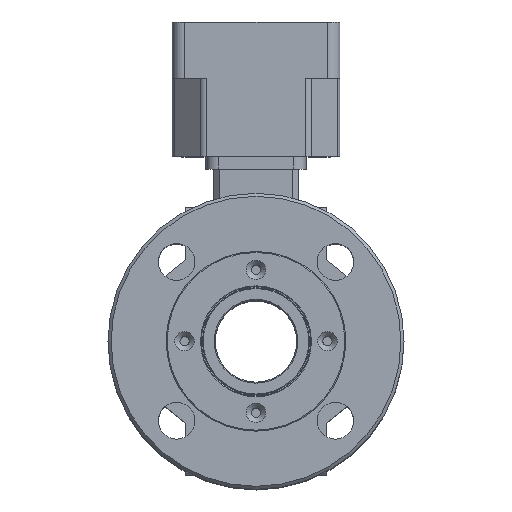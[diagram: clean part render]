
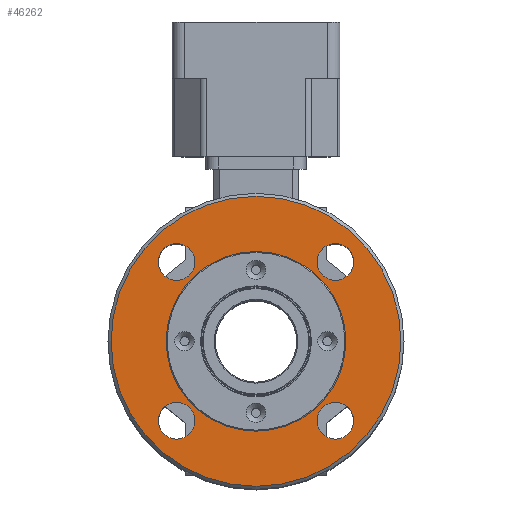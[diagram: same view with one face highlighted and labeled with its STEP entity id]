
A CAD part, top view. The second image highlights one B-rep face of the part: STEP entity #46262.
In plain terms, the highlighted planar face has unit normal (0, 0, 1).
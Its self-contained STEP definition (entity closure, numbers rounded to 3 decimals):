
#10963=FACE_BOUND('',#13898,.T.);
#10964=FACE_BOUND('',#13899,.T.);
#10965=FACE_BOUND('',#13900,.T.);
#10966=FACE_BOUND('',#13901,.T.);
#10967=FACE_BOUND('',#13902,.T.);
#11293=FACE_OUTER_BOUND('',#13897,.T.);
#13897=EDGE_LOOP('',(#29230));
#13898=EDGE_LOOP('',(#29231));
#13899=EDGE_LOOP('',(#29232,#29233));
#13900=EDGE_LOOP('',(#29234,#29235));
#13901=EDGE_LOOP('',(#29236,#29237));
#13902=EDGE_LOOP('',(#29238,#29239));
#16782=CIRCLE('',#48979,44.);
#16791=CIRCLE('',#48992,71.);
#16792=CIRCLE('',#48994,9.);
#16793=CIRCLE('',#48995,9.);
#16794=CIRCLE('',#48996,9.);
#16795=CIRCLE('',#48997,9.);
#16796=CIRCLE('',#48998,9.);
#16797=CIRCLE('',#48999,9.);
#16798=CIRCLE('',#49000,9.);
#16799=CIRCLE('',#49001,9.);
#18062=VERTEX_POINT('',#63782);
#18070=VERTEX_POINT('',#63806);
#18071=VERTEX_POINT('',#63810);
#18072=VERTEX_POINT('',#63811);
#18073=VERTEX_POINT('',#63814);
#18074=VERTEX_POINT('',#63815);
#18075=VERTEX_POINT('',#63818);
#18076=VERTEX_POINT('',#63819);
#18077=VERTEX_POINT('',#63822);
#18078=VERTEX_POINT('',#63823);
#22405=EDGE_CURVE('',#18062,#18062,#16782,.T.);
#22417=EDGE_CURVE('',#18070,#18070,#16791,.T.);
#22418=EDGE_CURVE('',#18071,#18072,#16792,.T.);
#22419=EDGE_CURVE('',#18072,#18071,#16793,.T.);
#22420=EDGE_CURVE('',#18073,#18074,#16794,.T.);
#22421=EDGE_CURVE('',#18074,#18073,#16795,.T.);
#22422=EDGE_CURVE('',#18075,#18076,#16796,.T.);
#22423=EDGE_CURVE('',#18076,#18075,#16797,.T.);
#22424=EDGE_CURVE('',#18077,#18078,#16798,.T.);
#22425=EDGE_CURVE('',#18078,#18077,#16799,.T.);
#29230=ORIENTED_EDGE('',*,*,#22417,.F.);
#29231=ORIENTED_EDGE('',*,*,#22405,.T.);
#29232=ORIENTED_EDGE('',*,*,#22418,.T.);
#29233=ORIENTED_EDGE('',*,*,#22419,.T.);
#29234=ORIENTED_EDGE('',*,*,#22420,.T.);
#29235=ORIENTED_EDGE('',*,*,#22421,.T.);
#29236=ORIENTED_EDGE('',*,*,#22422,.T.);
#29237=ORIENTED_EDGE('',*,*,#22423,.T.);
#29238=ORIENTED_EDGE('',*,*,#22424,.T.);
#29239=ORIENTED_EDGE('',*,*,#22425,.T.);
#42185=PLANE('',#48993);
#46262=ADVANCED_FACE('',(#11293,#10963,#10964,#10965,#10966,#10967),#42185,
 .T.);
#48979=AXIS2_PLACEMENT_3D('',#63784,#52623,#52624);
#48992=AXIS2_PLACEMENT_3D('',#63808,#52652,#52653);
#48993=AXIS2_PLACEMENT_3D('',#63809,#52654,#52655);
#48994=AXIS2_PLACEMENT_3D('',#63812,#52656,#52657);
#48995=AXIS2_PLACEMENT_3D('',#63813,#52658,#52659);
#48996=AXIS2_PLACEMENT_3D('',#63816,#52660,#52661);
#48997=AXIS2_PLACEMENT_3D('',#63817,#52662,#52663);
#48998=AXIS2_PLACEMENT_3D('',#63820,#52664,#52665);
#48999=AXIS2_PLACEMENT_3D('',#63821,#52666,#52667);
#49000=AXIS2_PLACEMENT_3D('',#63824,#52668,#52669);
#49001=AXIS2_PLACEMENT_3D('',#63825,#52670,#52671);
#52623=DIRECTION('center_axis',(0.,0.,-1.));
#52624=DIRECTION('ref_axis',(-1.,0.,0.));
#52652=DIRECTION('center_axis',(0.,0.,-1.));
#52653=DIRECTION('ref_axis',(0.,1.,0.));
#52654=DIRECTION('center_axis',(0.,0.,1.));
#52655=DIRECTION('ref_axis',(-1.,0.,0.));
#52656=DIRECTION('center_axis',(0.,0.,-1.));
#52657=DIRECTION('ref_axis',(-1.,0.,0.));
#52658=DIRECTION('center_axis',(0.,0.,-1.));
#52659=DIRECTION('ref_axis',(-1.,0.,0.));
#52660=DIRECTION('center_axis',(0.,0.,-1.));
#52661=DIRECTION('ref_axis',(-1.,0.,0.));
#52662=DIRECTION('center_axis',(0.,0.,-1.));
#52663=DIRECTION('ref_axis',(-1.,0.,0.));
#52664=DIRECTION('center_axis',(0.,0.,-1.));
#52665=DIRECTION('ref_axis',(-1.,0.,0.));
#52666=DIRECTION('center_axis',(0.,0.,-1.));
#52667=DIRECTION('ref_axis',(-1.,0.,0.));
#52668=DIRECTION('center_axis',(0.,0.,-1.));
#52669=DIRECTION('ref_axis',(-1.,0.,0.));
#52670=DIRECTION('center_axis',(0.,0.,-1.));
#52671=DIRECTION('ref_axis',(-1.,0.,0.));
#63782=CARTESIAN_POINT('',(-44.,0.,0.));
#63784=CARTESIAN_POINT('Origin',(0.,0.,0.));
#63806=CARTESIAN_POINT('',(0.,-71.,0.));
#63808=CARTESIAN_POINT('Origin',(0.,0.,0.));
#63809=CARTESIAN_POINT('Origin',(0.,-72.5,0.));
#63810=CARTESIAN_POINT('',(-47.891,38.891,0.));
#63811=CARTESIAN_POINT('',(-29.891,38.891,0.));
#63812=CARTESIAN_POINT('Origin',(-38.891,38.891,0.));
#63813=CARTESIAN_POINT('Origin',(-38.891,38.891,0.));
#63814=CARTESIAN_POINT('',(29.891,-38.891,0.));
#63815=CARTESIAN_POINT('',(47.891,-38.891,0.));
#63816=CARTESIAN_POINT('Origin',(38.891,-38.891,0.));
#63817=CARTESIAN_POINT('Origin',(38.891,-38.891,0.));
#63818=CARTESIAN_POINT('',(-47.891,-38.891,0.));
#63819=CARTESIAN_POINT('',(-29.891,-38.891,0.));
#63820=CARTESIAN_POINT('Origin',(-38.891,-38.891,0.));
#63821=CARTESIAN_POINT('Origin',(-38.891,-38.891,0.));
#63822=CARTESIAN_POINT('',(29.891,38.891,0.));
#63823=CARTESIAN_POINT('',(47.891,38.891,0.));
#63824=CARTESIAN_POINT('Origin',(38.891,38.891,0.));
#63825=CARTESIAN_POINT('Origin',(38.891,38.891,0.));
